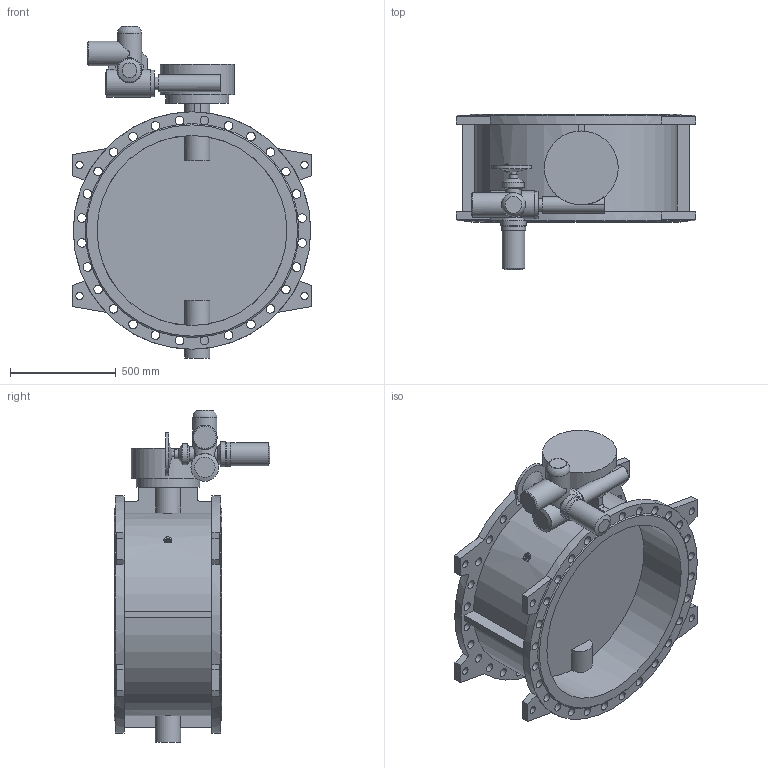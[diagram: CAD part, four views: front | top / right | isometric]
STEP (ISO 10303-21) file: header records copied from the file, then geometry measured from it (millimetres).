
FILE_DESCRIPTION(('STEP AP203'), '1');
FILE_NAME('Çàòâîð 023F.Z DN900 PN16 + ðåäóêòîð + ÌÒ903.À10', '', ('UNSPECIFIED'), ('UNSPECIFIED'), 'ASCON STEP Converter 1.6', 'ASCON Math Kernel', '');
FILE_SCHEMA(('CONFIG_CONTROL_DESIGN'));
Length unit declared in the file: millimetre
Bounding box: 1136 x 738 x 1573 mm (x, y, z)
Volume: 144448154.7 mm3; surface area: 6908584 mm2
Topology: 1 solids, 1 shells, 264 faces, 817 edges, 536 vertices
Faces by surface type: cylinder 131, plane 121, cone 11, torus 1
Full cylindrical faces by diameter (mm): 8.5 x4, 12 x4, 14 x8, 18 x8, 24 x1, 35 x8, 41 x56, 42 x1, 60 x1, 66 x1, 72 x1, 80 x2, 100 x1, 108 x1, 114 x1, 115 x1, 116 x1, 119 x1, 120 x1, 125 x1, 132 x1, 300 x1, 350 x1, 900 x2, 1125 x2
Entity records: 16062 total; most frequent: CARTESIAN_POINT 6707, DIRECTION 1528, ORIENTED_EDGE 1382, EDGE_CURVE 691, AXIS2_PLACEMENT_3D 663, VERTEX_POINT 535, EDGE_LOOP 498, CIRCLE 399
